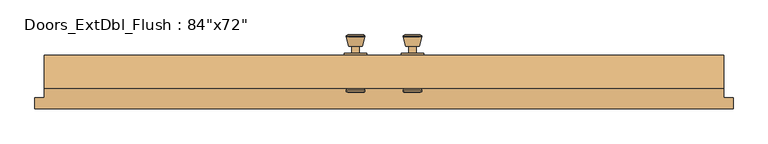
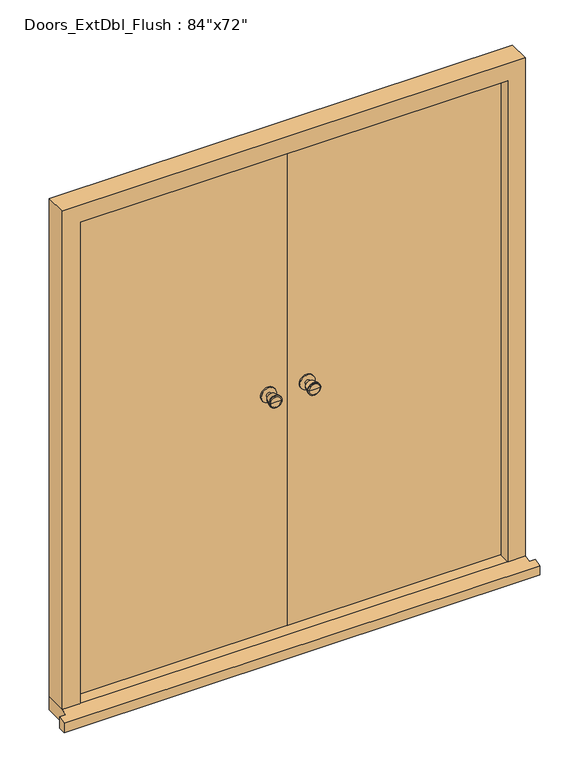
"""IFC4 building model written with IfcOpenShell, lengths in millimetres: door geometry."""

from ifc_helpers import new_model, si_unit, point, frame, frame_2d, origin, place, context, project, spatial, polyline, circle_curve, trimmed, segment, composite_curve, outline, extrude, faceted_brep, source, transform, mapped, element, save
from ifc_brep_helpers import plane_surface, cylinder_surface, revolved_surface, advanced_brep


def door_3c803aa1(model_context):
    return source(origin(), model_context, "Body", "SolidModel", [
        advanced_brep(
        [(-76.5, -32.4, 1050.0), (-86.5, -32.4, 1050.0), (-66.5, -32.4, 1050.0), (-96.9758676, 16.6, 1050.0), (-76.5, 16.6, 1050.0), (-56.0241324, 16.6, 1050.0), (-101.5, 14.7721319, 1050.0), (-51.5, 14.7721319, 1050.0), (-101.5, 11.3084537, 1050.0), (-51.5, 11.3084537, 1050.0), (-95.136236, -13.4, 1050.0), (-57.863764, -13.4, 1050.0), (-86.5, -13.4, 1050.0), (-66.5, -13.4, 1050.0)],
        [
            (0, 1),
            (1, 2, circle_curve(frame((-76.5, -32.4, 1050.0), z_axis=(0.0, -1.0, 0.0), x_axis=(1.0, 0.0, 0.0)), 10.0)),
            (2, 0),
            (2, 1, circle_curve(frame((-76.5, -32.4, 1050.0), z_axis=(0.0, -1.0, 0.0), x_axis=(1.0, 0.0, 0.0)), 10.0)),
            (3, 4),
            (4, 5),
            (5, 3, circle_curve(frame((-76.5, 16.6, 1050.0), z_axis=(0.0, 1.0, 0.0), x_axis=(1.0, 0.0, 0.0)), 20.4758676)),
            (3, 5, circle_curve(frame((-76.5, 16.6, 1050.0), z_axis=(0.0, 1.0, 0.0), x_axis=(1.0, 0.0, 0.0)), 20.4758676)),
            (6, 3),
            (5, 7),
            (7, 6, circle_curve(frame((-76.5, 14.7721319, 1050.0), z_axis=(0.0, 1.0, 0.0), x_axis=(1.0, 0.0, 0.0)), 25.0)),
            (6, 7, circle_curve(frame((-76.5, 14.7721319, 1050.0), z_axis=(0.0, 1.0, 0.0), x_axis=(1.0, 0.0, 0.0)), 25.0)),
            (8, 6),
            (7, 9),
            (9, 8, circle_curve(frame((-76.5, 11.3084537, 1050.0), z_axis=(0.0, 1.0, 0.0), x_axis=(1.0, 0.0, 0.0)), 25.0)),
            (8, 9, circle_curve(frame((-76.5, 11.3084537, 1050.0), z_axis=(0.0, 1.0, 0.0), x_axis=(1.0, 0.0, 0.0)), 25.0)),
            (10, 8),
            (9, 11),
            (11, 10, circle_curve(frame((-76.5, -13.4, 1050.0), z_axis=(0.0, 1.0, 0.0), x_axis=(1.0, 0.0, 0.0)), 18.636236)),
            (10, 11, circle_curve(frame((-76.5, -13.4, 1050.0), z_axis=(0.0, 1.0, 0.0), x_axis=(1.0, 0.0, 0.0)), 18.636236)),
            (12, 10),
            (11, 13),
            (13, 12, circle_curve(frame((-76.5, -13.4, 1050.0), z_axis=(0.0, 1.0, 0.0), x_axis=(1.0, 0.0, 0.0)), 10.0)),
            (12, 13, circle_curve(frame((-76.5, -13.4, 1050.0), z_axis=(0.0, 1.0, 0.0), x_axis=(1.0, 0.0, 0.0)), 10.0)),
            (1, 12),
            (13, 2),
        ],
        [
            plane_surface(frame((-76.5, -32.4, 1050.0), z_axis=(0.0, -1.0, 0.0), x_axis=(1.0, 0.0, 0.0))),
            plane_surface(frame((-76.5, 16.6, 1050.0), z_axis=(0.0, 1.0, 0.0), x_axis=(1.0, 0.0, 0.0))),
            revolved_surface(polyline([(-56.0241324, 16.6, 1050.0), (-51.5, 14.7721319, 1050.0)]), (-76.5, -32.4, 1050.0), (0.0, -1.0, 0.0)),
            cylinder_surface(frame((-76.5, -32.4, 1050.0), z_axis=(0.0, -1.0, 0.0), x_axis=(1.0, 0.0, 0.0)), 25.0),
            revolved_surface(polyline([(-51.5, 11.3084537, 1050.0), (-57.863764, -13.4, 1050.0)]), (-76.5, -32.4, 1050.0), (0.0, -1.0, 0.0)),
            plane_surface(frame((-76.5, -13.4, 1050.0), z_axis=(0.0, -1.0, 0.0), x_axis=(1.0, 0.0, 0.0))),
            cylinder_surface(frame((-76.5, -32.4, 1050.0), z_axis=(0.0, -1.0, 0.0), x_axis=(1.0, 0.0, 0.0)), 10.0),
        ],
        [
            (0, [[1, 2, 3]]),
            (0, [[-3, 4, -1]]),
            (1, [[5, 6, 7]]),
            (1, [[-6, -5, 8]]),
            (2, [[9, -7, 10, 11]]),
            (2, [[-10, -8, -9, 12]]),
            (3, [[13, -11, 14, 15]]),
            (3, [[-14, -12, -13, 16]]),
            (4, [[17, -15, 18, 19]]),
            (4, [[-18, -16, -17, 20]]),
            (5, [[21, -19, 22, 23]]),
            (5, [[-22, -20, -21, 24]]),
            (6, [[25, -23, 26, -2]]),
            (6, [[-26, -24, -25, -4]]),
        ],
    ),
        extrude(outline(composite_curve([segment(trimmed(circle_curve(frame_2d((1050.0, -76.5)), 30.0), [point((1050.0, -46.5))], [point((1050.0, -106.5))], False, "CARTESIAN"), True, "CONTINUOUS"), segment(trimmed(circle_curve(frame_2d((1050.0, -76.5)), 30.0), [point((1050.0, -106.5))], [point((1050.0, -46.5))], False, "CARTESIAN"), True, "CONTINUOUS")], self_intersect=False)), frame((0.0, -38.4, 0.0), z_axis=(0.0, 1.0, 0.0), x_axis=(0.0, 0.0, 1.0)), (0.0, 0.0, 1.0), 6.0),
        advanced_brep(
        [(-76.5, -88.4, 1050.0), (-66.5, -88.4, 1050.0), (-86.5, -88.4, 1050.0), (-96.9758676, -137.4, 1050.0), (-56.0241324, -137.4, 1050.0), (-76.5, -137.4, 1050.0), (-101.5, -135.5721319, 1050.0), (-51.5, -135.5721319, 1050.0), (-101.5, -132.1084537, 1050.0), (-51.5, -132.1084537, 1050.0), (-95.136236, -107.4, 1050.0), (-57.863764, -107.4, 1050.0), (-86.5, -107.4, 1050.0), (-66.5, -107.4, 1050.0)],
        [
            (0, 1),
            (1, 2, circle_curve(frame((-76.5, -88.4, 1050.0), z_axis=(0.0, 1.0, 0.0), x_axis=(1.0, 0.0, 0.0)), 10.0)),
            (2, 0),
            (2, 1, circle_curve(frame((-76.5, -88.4, 1050.0), z_axis=(0.0, 1.0, 0.0), x_axis=(1.0, 0.0, 0.0)), 10.0)),
            (3, 4, circle_curve(frame((-76.5, -137.4, 1050.0), z_axis=(0.0, -1.0, 0.0), x_axis=(1.0, 0.0, 0.0)), 20.4758676)),
            (4, 5),
            (5, 3),
            (4, 3, circle_curve(frame((-76.5, -137.4, 1050.0), z_axis=(0.0, -1.0, 0.0), x_axis=(1.0, 0.0, 0.0)), 20.4758676)),
            (6, 7, circle_curve(frame((-76.5, -135.5721319, 1050.0), z_axis=(0.0, -1.0, 0.0), x_axis=(1.0, 0.0, 0.0)), 25.0)),
            (7, 4),
            (3, 6),
            (7, 6, circle_curve(frame((-76.5, -135.5721319, 1050.0), z_axis=(0.0, -1.0, 0.0), x_axis=(1.0, 0.0, 0.0)), 25.0)),
            (8, 9, circle_curve(frame((-76.5, -132.1084537, 1050.0), z_axis=(0.0, -1.0, 0.0), x_axis=(1.0, 0.0, 0.0)), 25.0)),
            (9, 7),
            (6, 8),
            (9, 8, circle_curve(frame((-76.5, -132.1084537, 1050.0), z_axis=(0.0, -1.0, 0.0), x_axis=(1.0, 0.0, 0.0)), 25.0)),
            (10, 11, circle_curve(frame((-76.5, -107.4, 1050.0), z_axis=(0.0, -1.0, 0.0), x_axis=(1.0, 0.0, 0.0)), 18.636236)),
            (11, 9),
            (8, 10),
            (11, 10, circle_curve(frame((-76.5, -107.4, 1050.0), z_axis=(0.0, -1.0, 0.0), x_axis=(1.0, 0.0, 0.0)), 18.636236)),
            (12, 13, circle_curve(frame((-76.5, -107.4, 1050.0), z_axis=(0.0, -1.0, 0.0), x_axis=(1.0, 0.0, 0.0)), 10.0)),
            (13, 11),
            (10, 12),
            (13, 12, circle_curve(frame((-76.5, -107.4, 1050.0), z_axis=(0.0, -1.0, 0.0), x_axis=(1.0, 0.0, 0.0)), 10.0)),
            (1, 13),
            (12, 2),
        ],
        [
            plane_surface(frame((-76.5, -88.4, 1050.0), z_axis=(0.0, 1.0, 0.0), x_axis=(1.0, 0.0, 0.0))),
            plane_surface(frame((-76.5, -137.4, 1050.0), z_axis=(0.0, -1.0, 0.0), x_axis=(1.0, 0.0, 0.0))),
            revolved_surface(polyline([(-56.0241324, -137.4, 1050.0), (-51.5, -135.5721319, 1050.0)]), (-76.5, -88.4, 1050.0), (0.0, 1.0, 0.0)),
            cylinder_surface(frame((-76.5, -88.4, 1050.0), z_axis=(0.0, 1.0, 0.0), x_axis=(1.0, 0.0, 0.0)), 25.0),
            revolved_surface(polyline([(-51.5, -132.1084537, 1050.0), (-57.863764, -107.4, 1050.0)]), (-76.5, -88.4, 1050.0), (0.0, 1.0, 0.0)),
            plane_surface(frame((-76.5, -107.4, 1050.0), z_axis=(0.0, 1.0, 0.0), x_axis=(1.0, 0.0, 0.0))),
            cylinder_surface(frame((-76.5, -88.4, 1050.0), z_axis=(0.0, 1.0, 0.0), x_axis=(1.0, 0.0, 0.0)), 10.0),
        ],
        [
            (0, [[1, 2, 3]]),
            (0, [[-3, 4, -1]]),
            (1, [[5, 6, 7]]),
            (1, [[8, -7, -6]]),
            (2, [[9, 10, -5, 11]]),
            (2, [[12, -11, -8, -10]]),
            (3, [[13, 14, -9, 15]]),
            (3, [[16, -15, -12, -14]]),
            (4, [[17, 18, -13, 19]]),
            (4, [[20, -19, -16, -18]]),
            (5, [[21, 22, -17, 23]]),
            (5, [[24, -23, -20, -22]]),
            (6, [[-2, 25, -21, 26]]),
            (6, [[-4, -26, -24, -25]]),
        ],
    ),
        extrude(outline(composite_curve([segment(trimmed(circle_curve(frame_2d((1050.0, -76.5)), 30.0), [point((1050.0, -46.5))], [point((1050.0, -106.5))], False, "CARTESIAN"), True, "CONTINUOUS"), segment(trimmed(circle_curve(frame_2d((1050.0, -76.5)), 30.0), [point((1050.0, -106.5))], [point((1050.0, -46.5))], False, "CARTESIAN"), True, "CONTINUOUS")], self_intersect=False)), frame((0.0, -88.4, 0.0), z_axis=(0.0, 1.0, 0.0), x_axis=(0.0, 0.0, 1.0)), (0.0, 0.0, 1.0), 6.0),
        advanced_brep(
        [(76.5, -32.4, 1050.0), (66.5, -32.4, 1050.0), (86.5, -32.4, 1050.0), (96.9758676, 16.6, 1050.0), (56.0241324, 16.6, 1050.0), (76.5, 16.6, 1050.0), (101.5, 14.7721319, 1050.0), (51.5, 14.7721319, 1050.0), (101.5, 11.3084537, 1050.0), (51.5, 11.3084537, 1050.0), (95.136236, -13.4, 1050.0), (57.863764, -13.4, 1050.0), (86.5, -13.4, 1050.0), (66.5, -13.4, 1050.0)],
        [
            (0, 1),
            (1, 2, circle_curve(frame((76.5, -32.4, 1050.0), z_axis=(0.0, -1.0, 0.0), x_axis=(-1.0, 0.0, 0.0)), 10.0)),
            (2, 0),
            (2, 1, circle_curve(frame((76.5, -32.4, 1050.0), z_axis=(0.0, -1.0, 0.0), x_axis=(-1.0, 0.0, 0.0)), 10.0)),
            (3, 4, circle_curve(frame((76.5, 16.6, 1050.0), z_axis=(0.0, 1.0, 0.0), x_axis=(-1.0, 0.0, 0.0)), 20.4758676)),
            (4, 5),
            (5, 3),
            (4, 3, circle_curve(frame((76.5, 16.6, 1050.0), z_axis=(0.0, 1.0, 0.0), x_axis=(-1.0, 0.0, 0.0)), 20.4758676)),
            (6, 7, circle_curve(frame((76.5, 14.7721319, 1050.0), z_axis=(0.0, 1.0, 0.0), x_axis=(-1.0, 0.0, 0.0)), 25.0)),
            (7, 4),
            (3, 6),
            (7, 6, circle_curve(frame((76.5, 14.7721319, 1050.0), z_axis=(0.0, 1.0, 0.0), x_axis=(-1.0, 0.0, 0.0)), 25.0)),
            (8, 9, circle_curve(frame((76.5, 11.3084537, 1050.0), z_axis=(0.0, 1.0, 0.0), x_axis=(-1.0, 0.0, 0.0)), 25.0)),
            (9, 7),
            (6, 8),
            (9, 8, circle_curve(frame((76.5, 11.3084537, 1050.0), z_axis=(0.0, 1.0, 0.0), x_axis=(-1.0, 0.0, 0.0)), 25.0)),
            (10, 11, circle_curve(frame((76.5, -13.4, 1050.0), z_axis=(0.0, 1.0, 0.0), x_axis=(-1.0, 0.0, 0.0)), 18.636236)),
            (11, 9),
            (8, 10),
            (11, 10, circle_curve(frame((76.5, -13.4, 1050.0), z_axis=(0.0, 1.0, 0.0), x_axis=(-1.0, 0.0, 0.0)), 18.636236)),
            (12, 13, circle_curve(frame((76.5, -13.4, 1050.0), z_axis=(0.0, 1.0, 0.0), x_axis=(-1.0, 0.0, 0.0)), 10.0)),
            (13, 11),
            (10, 12),
            (13, 12, circle_curve(frame((76.5, -13.4, 1050.0), z_axis=(0.0, 1.0, 0.0), x_axis=(-1.0, 0.0, 0.0)), 10.0)),
            (1, 13),
            (12, 2),
        ],
        [
            plane_surface(frame((76.5, -32.4, 1050.0), z_axis=(0.0, -1.0, 0.0), x_axis=(-1.0, 0.0, 0.0))),
            plane_surface(frame((76.5, 16.6, 1050.0), z_axis=(0.0, 1.0, 0.0), x_axis=(-1.0, 0.0, 0.0))),
            revolved_surface(polyline([(56.0241324, 16.6, 1050.0), (51.5, 14.7721319, 1050.0)]), (76.5, -32.4, 1050.0), (0.0, -1.0, 0.0)),
            cylinder_surface(frame((76.5, -32.4, 1050.0), z_axis=(0.0, -1.0, 0.0), x_axis=(-1.0, 0.0, 0.0)), 25.0),
            revolved_surface(polyline([(51.5, 11.3084537, 1050.0), (57.863764, -13.4, 1050.0)]), (76.5, -32.4, 1050.0), (0.0, -1.0, 0.0)),
            plane_surface(frame((76.5, -13.4, 1050.0), z_axis=(0.0, -1.0, 0.0), x_axis=(-1.0, 0.0, 0.0))),
            cylinder_surface(frame((76.5, -32.4, 1050.0), z_axis=(0.0, -1.0, 0.0), x_axis=(-1.0, 0.0, 0.0)), 10.0),
        ],
        [
            (0, [[1, 2, 3]]),
            (0, [[-3, 4, -1]]),
            (1, [[5, 6, 7]]),
            (1, [[8, -7, -6]]),
            (2, [[9, 10, -5, 11]]),
            (2, [[12, -11, -8, -10]]),
            (3, [[13, 14, -9, 15]]),
            (3, [[16, -15, -12, -14]]),
            (4, [[17, 18, -13, 19]]),
            (4, [[20, -19, -16, -18]]),
            (5, [[21, 22, -17, 23]]),
            (5, [[24, -23, -20, -22]]),
            (6, [[-2, 25, -21, 26]]),
            (6, [[-4, -26, -24, -25]]),
        ],
    ),
        extrude(outline(composite_curve([segment(trimmed(circle_curve(frame_2d((1050.0, 76.5)), 30.0), [point((1050.0, 46.5))], [point((1050.0, 106.5))], False, "CARTESIAN"), True, "CONTINUOUS"), segment(trimmed(circle_curve(frame_2d((1050.0, 76.5)), 30.0), [point((1050.0, 106.5))], [point((1050.0, 46.5))], False, "CARTESIAN"), True, "CONTINUOUS")], self_intersect=False)), frame((0.0, -38.4, 0.0), z_axis=(0.0, 1.0, 0.0), x_axis=(0.0, 0.0, 1.0)), (0.0, 0.0, 1.0), 6.0),
        advanced_brep(
        [(76.5, -88.4, 1050.0), (86.5, -88.4, 1050.0), (66.5, -88.4, 1050.0), (96.9758676, -137.4, 1050.0), (76.5, -137.4, 1050.0), (56.0241324, -137.4, 1050.0), (101.5, -135.5721319, 1050.0), (51.5, -135.5721319, 1050.0), (101.5, -132.1084537, 1050.0), (51.5, -132.1084537, 1050.0), (95.136236, -107.4, 1050.0), (57.863764, -107.4, 1050.0), (86.5, -107.4, 1050.0), (66.5, -107.4, 1050.0)],
        [
            (0, 1),
            (1, 2, circle_curve(frame((76.5, -88.4, 1050.0), z_axis=(0.0, 1.0, 0.0), x_axis=(-1.0, 0.0, 0.0)), 10.0)),
            (2, 0),
            (2, 1, circle_curve(frame((76.5, -88.4, 1050.0), z_axis=(0.0, 1.0, 0.0), x_axis=(-1.0, 0.0, 0.0)), 10.0)),
            (3, 4),
            (4, 5),
            (5, 3, circle_curve(frame((76.5, -137.4, 1050.0), z_axis=(0.0, -1.0, 0.0), x_axis=(-1.0, 0.0, 0.0)), 20.4758676)),
            (3, 5, circle_curve(frame((76.5, -137.4, 1050.0), z_axis=(0.0, -1.0, 0.0), x_axis=(-1.0, 0.0, 0.0)), 20.4758676)),
            (6, 3),
            (5, 7),
            (7, 6, circle_curve(frame((76.5, -135.5721319, 1050.0), z_axis=(0.0, -1.0, 0.0), x_axis=(-1.0, 0.0, 0.0)), 25.0)),
            (6, 7, circle_curve(frame((76.5, -135.5721319, 1050.0), z_axis=(0.0, -1.0, 0.0), x_axis=(-1.0, 0.0, 0.0)), 25.0)),
            (8, 6),
            (7, 9),
            (9, 8, circle_curve(frame((76.5, -132.1084537, 1050.0), z_axis=(0.0, -1.0, 0.0), x_axis=(-1.0, 0.0, 0.0)), 25.0)),
            (8, 9, circle_curve(frame((76.5, -132.1084537, 1050.0), z_axis=(0.0, -1.0, 0.0), x_axis=(-1.0, 0.0, 0.0)), 25.0)),
            (10, 8),
            (9, 11),
            (11, 10, circle_curve(frame((76.5, -107.4, 1050.0), z_axis=(0.0, -1.0, 0.0), x_axis=(-1.0, 0.0, 0.0)), 18.636236)),
            (10, 11, circle_curve(frame((76.5, -107.4, 1050.0), z_axis=(0.0, -1.0, 0.0), x_axis=(-1.0, 0.0, 0.0)), 18.636236)),
            (12, 10),
            (11, 13),
            (13, 12, circle_curve(frame((76.5, -107.4, 1050.0), z_axis=(0.0, -1.0, 0.0), x_axis=(-1.0, 0.0, 0.0)), 10.0)),
            (12, 13, circle_curve(frame((76.5, -107.4, 1050.0), z_axis=(0.0, -1.0, 0.0), x_axis=(-1.0, 0.0, 0.0)), 10.0)),
            (1, 12),
            (13, 2),
        ],
        [
            plane_surface(frame((76.5, -88.4, 1050.0), z_axis=(0.0, 1.0, 0.0), x_axis=(-1.0, 0.0, 0.0))),
            plane_surface(frame((76.5, -137.4, 1050.0), z_axis=(0.0, -1.0, 0.0), x_axis=(-1.0, 0.0, 0.0))),
            revolved_surface(polyline([(56.0241324, -137.4, 1050.0), (51.5, -135.5721319, 1050.0)]), (76.5, -88.4, 1050.0), (0.0, 1.0, 0.0)),
            cylinder_surface(frame((76.5, -88.4, 1050.0), z_axis=(0.0, 1.0, 0.0), x_axis=(-1.0, 0.0, 0.0)), 25.0),
            revolved_surface(polyline([(51.5, -132.1084537, 1050.0), (57.863764, -107.4, 1050.0)]), (76.5, -88.4, 1050.0), (0.0, 1.0, 0.0)),
            plane_surface(frame((76.5, -107.4, 1050.0), z_axis=(0.0, 1.0, 0.0), x_axis=(-1.0, 0.0, 0.0))),
            cylinder_surface(frame((76.5, -88.4, 1050.0), z_axis=(0.0, 1.0, 0.0), x_axis=(-1.0, 0.0, 0.0)), 10.0),
        ],
        [
            (0, [[1, 2, 3]]),
            (0, [[-3, 4, -1]]),
            (1, [[5, 6, 7]]),
            (1, [[-6, -5, 8]]),
            (2, [[9, -7, 10, 11]]),
            (2, [[-10, -8, -9, 12]]),
            (3, [[13, -11, 14, 15]]),
            (3, [[-14, -12, -13, 16]]),
            (4, [[17, -15, 18, 19]]),
            (4, [[-18, -16, -17, 20]]),
            (5, [[21, -19, 22, 23]]),
            (5, [[-22, -20, -21, 24]]),
            (6, [[25, -23, 26, -2]]),
            (6, [[-26, -24, -25, -4]]),
        ],
    ),
        extrude(outline(composite_curve([segment(trimmed(circle_curve(frame_2d((1050.0, 76.5)), 30.0), [point((1050.0, 46.5))], [point((1050.0, 106.5))], False, "CARTESIAN"), True, "CONTINUOUS"), segment(trimmed(circle_curve(frame_2d((1050.0, 76.5)), 30.0), [point((1050.0, 106.5))], [point((1050.0, 46.5))], False, "CARTESIAN"), True, "CONTINUOUS")], self_intersect=False)), frame((0.0, -88.4, 0.0), z_axis=(0.0, 1.0, 0.0), x_axis=(0.0, 0.0, 1.0)), (0.0, 0.0, 1.0), 6.0),
        faceted_brep([(843.9, -127.4, 54.5), (843.9, -85.4, 54.5), (865.9, -85.4, 54.5), (865.9, -38.4, 54.5), (914.4, -38.4, 54.5), (914.4, -127.4, 54.5), (914.4, -127.4, 2133.6), (-914.4, -127.4, 2133.6), (-914.4, -127.4, 54.5), (-843.9, -127.4, 54.5), (-843.9, -127.4, 2063.1), (843.9, -127.4, 2063.1), (914.4, -38.4, 2133.6), (865.9, -38.4, 2085.1), (-865.9, -38.4, 2085.1), (-865.9, -38.4, 54.5), (-914.4, -38.4, 54.5), (-914.4, -38.4, 2133.6), (865.9, -85.4, 2085.1), (843.9, -85.4, 2063.1), (-843.9, -85.4, 2063.1), (-843.9, -85.4, 54.5), (-865.9, -85.4, 54.5), (-865.9, -85.4, 2085.1)], [[[0, 1, 2, 3, 4, 5]], [[5, 6, 7, 8, 9, 10, 11, 0]], [[4, 12, 6, 5]], [[3, 13, 14, 15, 16, 17, 12, 4]], [[2, 18, 13, 3]], [[1, 19, 20, 21, 22, 23, 18, 2]], [[0, 11, 19, 1]], [[12, 17, 7, 6]], [[18, 23, 14, 13]], [[11, 10, 20, 19]], [[9, 8, 16, 15, 22, 21]], [[17, 16, 8, 7]], [[23, 22, 15, 14]], [[10, 9, 21, 20]]]),
        faceted_brep([(939.4, -182.4, 0.0), (939.4, -152.4, 0.0), (939.4, -152.4, 47.2703282), (939.4, -182.4, 38.5947221), (-939.4, -182.4, 38.5947221), (-939.4, -152.4, 47.2703282), (-939.4, -152.4, 0.0), (-939.4, -182.4, 0.0), (-914.4, -152.4, 0.0), (-914.4, -38.4, 0.0), (914.4, -38.4, 0.0), (914.4, -152.4, 0.0), (914.4, -152.4, 47.2703282), (914.4, -127.4, 54.5), (-914.4, -127.4, 54.5), (-914.4, -152.4, 47.2703282), (914.4, -38.4, 54.5), (-914.4, -38.4, 54.5)], [[[0, 1, 2, 3]], [[4, 5, 6, 7]], [[7, 6, 8, 9, 10, 11, 1, 0]], [[3, 4, 7, 0]], [[3, 2, 12, 13, 14, 15, 5, 4]], [[14, 13, 16, 17]], [[17, 16, 10, 9]], [[15, 14, 17, 9, 8]], [[8, 6, 5, 15]], [[11, 10, 16, 13, 12]], [[12, 2, 1, 11]]]),
        extrude(outline(polyline([(862.9, -38.4), (862.9, -82.4), (1.5, -82.4), (1.5, -38.4), (862.9, -38.4)])), frame((0.0, 0.0, 58.5), z_axis=(0.0, 0.0, 1.0), x_axis=(1.0, 0.0, 0.0)), (0.0, 0.0, 1.0), 2023.6),
        extrude(outline(polyline([(-1.5, -38.4), (-1.5, -82.4), (-862.9, -82.4), (-862.9, -38.4), (-1.5, -38.4)])), frame((0.0, 0.0, 58.5), z_axis=(0.0, 0.0, 1.0), x_axis=(1.0, 0.0, 0.0)), (0.0, 0.0, 1.0), 2023.6),
    ])


if __name__ == "__main__":
    model = new_model("IFC4")
    model_context = context("Model", 3, world=origin())
    ifc_project = project(units=[si_unit("LENGTHUNIT", "METRE", prefix="MILLI")], contexts=[model_context])
    site = spatial("IfcSite", under=ifc_project)
    building = spatial("IfcBuilding", under=site)
    placement = place(None, origin())
    door_shape = door_3c803aa1(model_context)
    element("IfcDoor", 1, ObjectType="Doors_ExtDbl_Flush : 84\"x72\"", at=placement, inside=building, context=model_context, shape_type="MappedRepresentation", body=[
        mapped(door_shape, transform((0.0, 0.0, 0.0), x_axis=(1.0, 0.0, 0.0), y_axis=(0.0, 1.0, 0.0), z_axis=(0.0, 0.0, 1.0))),
    ])
    save(model, "model.ifc")
